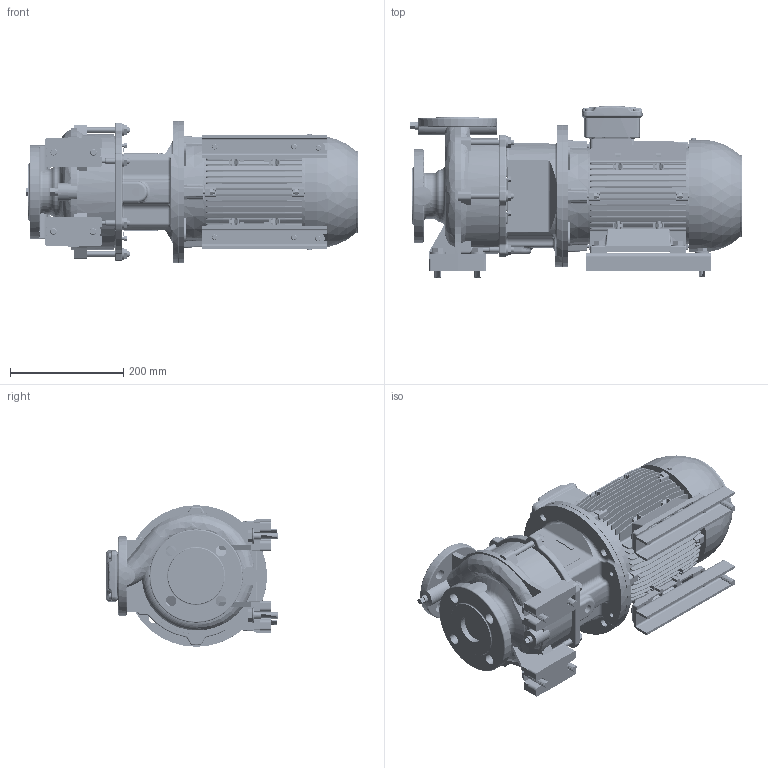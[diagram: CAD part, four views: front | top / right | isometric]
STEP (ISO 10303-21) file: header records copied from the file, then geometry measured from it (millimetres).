
FILE_DESCRIPTION (( 'STEP AP214' ), '1' );
FILE_NAME ('GSD2 32-125_3.0_(100L)_W21.STEP', '2026-07-02T04:52:58', ( '' ), ( '' ), 'SwSTEP 2.0', 'SolidWorks 2024', '' );
FILE_SCHEMA (( 'AUTOMOTIVE_DESIGN' ));
Length unit declared in the file: millimetre
Products named in the file (10): Parametric bolt_SFT-A253B; Parametric Flat Washer_M10; 100L ALIE3_W21T_B35; CGS11-5301_2_3_4_5_CGS11-5301; Parametric Flat Washer_M12; Parametric bolt_SFT-A305B; 140 x 32 - 271472023; Parametric bolt_SFT-A259B; 32-125-100L; GSD2  32-125_3.0_(100L)_W21
Assembly tree (26 placements, depth 2):
  GSD2  32-125_3.0_(100L)_W21
    32-125-100L
    100L ALIE3_W21T_B35
    CGS11-5301_2_3_4_5_CGS11-5301  x2
    140 x 32 - 271472023  x2
    Parametric bolt_SFT-A253B  x4
    Parametric bolt_SFT-A259B  x2
    Parametric bolt_SFT-A305B  x4
    Parametric Flat Washer_M10  x6
    Parametric Flat Washer_M12  x4
Bounding box: 586.3 x 303.5 x 250 mm (x, y, z)
Volume: 14206837.2 mm3; surface area: 1302613.5 mm2
Topology: 39 solids, 39 shells, 4220 faces, 11130 edges, 7228 vertices
Faces by surface type: plane 2335, cylinder 1130, torus 311, bspline 231, cone 195, sphere 18
Entity records: 178930 total; most frequent: CARTESIAN_POINT 87706, ORIENTED_EDGE 19802, DIRECTION 17593, EDGE_CURVE 9901, VERTEX_POINT 6437, LINE 6205, VECTOR 6205, AXIS2_PLACEMENT_3D 5694
